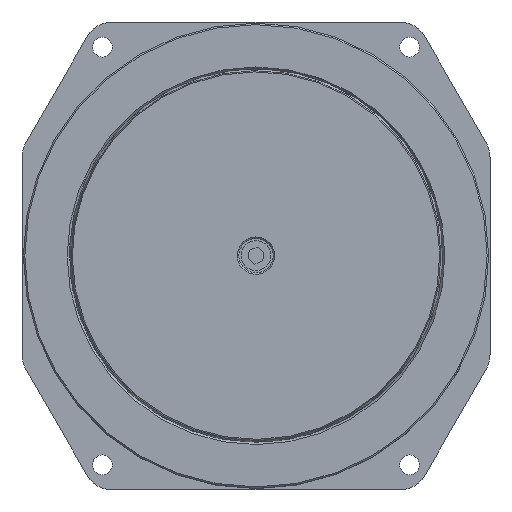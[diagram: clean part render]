
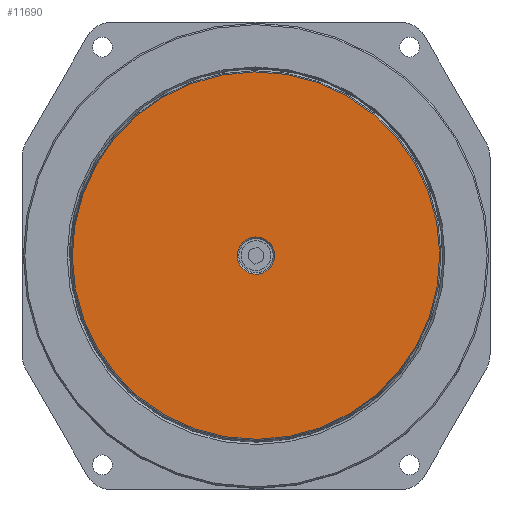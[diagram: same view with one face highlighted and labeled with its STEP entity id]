
A CAD part, top view. The second image highlights one B-rep face of the part: STEP entity #11690.
In plain terms, the highlighted planar face has unit normal (0, 0, 1).
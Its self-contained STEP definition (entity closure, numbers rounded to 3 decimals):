
#516=FACE_BOUND('',#2182,.T.);
#785=PLANE('',#13171);
#1400=FACE_OUTER_BOUND('',#2181,.T.);
#2181=EDGE_LOOP('',(#9737));
#2182=EDGE_LOOP('',(#9738));
#4617=CIRCLE('',#13168,6.25);
#4620=CIRCLE('',#13172,61.598);
#5445=VERTEX_POINT('',#36577);
#5448=VERTEX_POINT('',#36585);
#6942=EDGE_CURVE('',#5445,#5445,#4617,.T.);
#6946=EDGE_CURVE('',#5448,#5448,#4620,.T.);
#9737=ORIENTED_EDGE('',*,*,#6946,.F.);
#9738=ORIENTED_EDGE('',*,*,#6942,.F.);
#11690=ADVANCED_FACE('',(#1400,#516),#785,.T.);
#13168=AXIS2_PLACEMENT_3D('',#36578,#15603,#15604);
#13171=AXIS2_PLACEMENT_3D('',#36584,#15610,#15611);
#13172=AXIS2_PLACEMENT_3D('',#36586,#15612,#15613);
#15603=DIRECTION('center_axis',(0.,0.,1.));
#15604=DIRECTION('ref_axis',(-1.,0.,0.));
#15610=DIRECTION('center_axis',(0.,0.,1.));
#15611=DIRECTION('ref_axis',(1.,0.,0.));
#15612=DIRECTION('center_axis',(0.,0.,-1.));
#15613=DIRECTION('ref_axis',(-1.,0.,0.));
#36577=CARTESIAN_POINT('',(6.25,0.,14.));
#36578=CARTESIAN_POINT('Origin',(0.,0.,14.));
#36584=CARTESIAN_POINT('Origin',(0.,0.,
14.));
#36585=CARTESIAN_POINT('',(61.598,0.,14.));
#36586=CARTESIAN_POINT('Origin',(0.,0.,14.));
